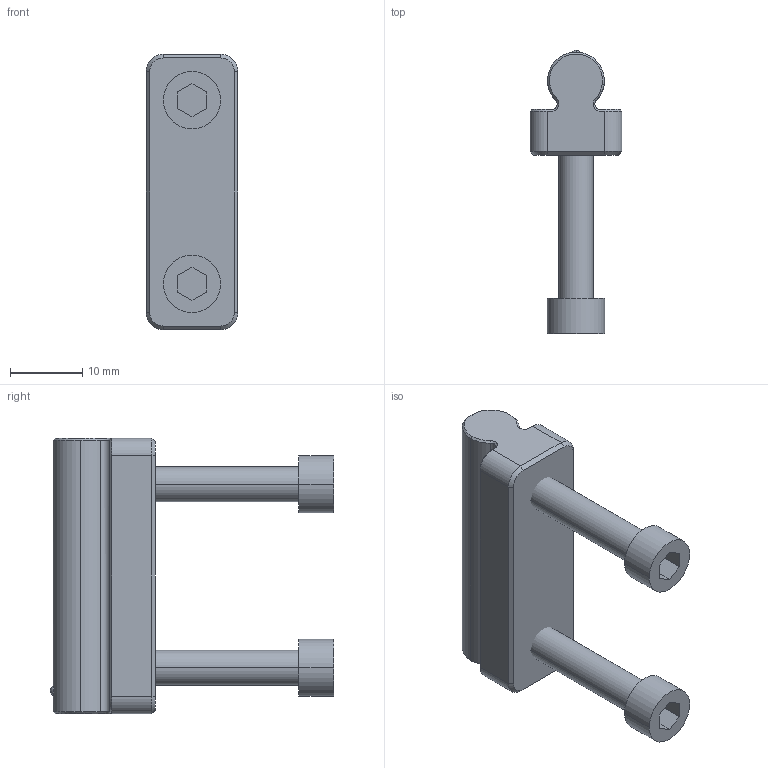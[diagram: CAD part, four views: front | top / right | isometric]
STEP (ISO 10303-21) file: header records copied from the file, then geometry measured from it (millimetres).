
FILE_DESCRIPTION (( 'STEP AP203' ), '1' );
FILE_NAME ('CGM100.step', '2025-04-18T18:13:31', ( '' ), ( '' ), 'SwSTEP 2.0', 'SolidWorks 2023', '' );
FILE_SCHEMA (( 'CONFIG_CONTROL_DESIGN' ));
Length unit declared in the file: inch
Products named in the file (3): CGM100; SHCS10-32L1.00_SHCS10-32L1.00
Assembly tree (3 placements, depth 2):
  CGM100
    CGM100
    SHCS10-32L1.00_SHCS10-32L1.00  x2
Bounding box: 12.7 x 39.17 x 38.1 mm (x, y, z)
Volume: 6030.4 mm3; surface area: 3835.8 mm2
Topology: 5 solids, 5 shells, 168 faces, 425 edges, 261 vertices
Faces by surface type: plane 55, cylinder 45, bspline 34, cone 32, sphere 2
Entity records: 9380 total; most frequent: CARTESIAN_POINT 5807, ORIENTED_EDGE 764, DIRECTION 581, EDGE_CURVE 382, VERTEX_POINT 238, AXIS2_PLACEMENT_3D 215, EDGE_LOOP 158, ADVANCED_FACE 154
